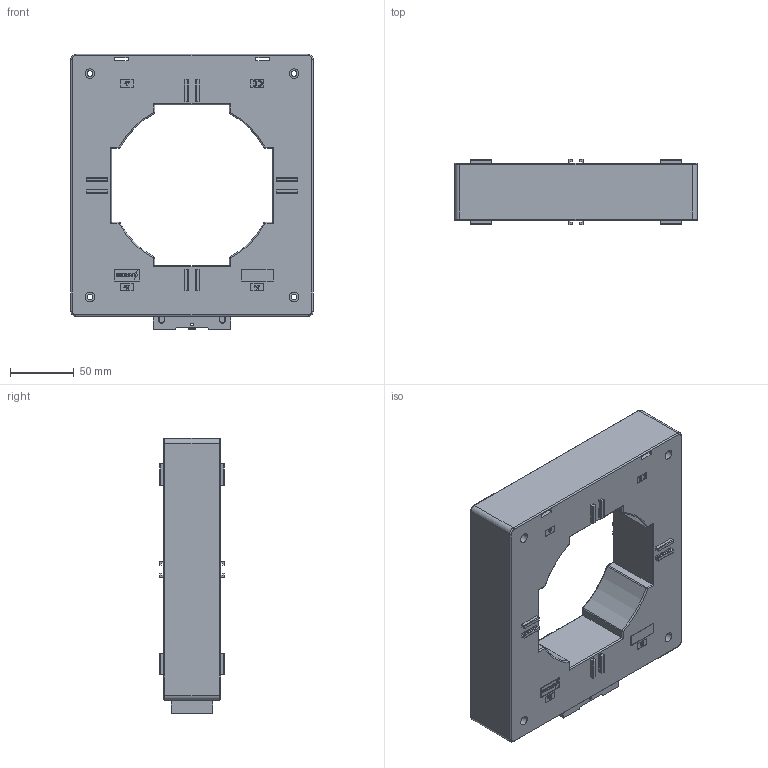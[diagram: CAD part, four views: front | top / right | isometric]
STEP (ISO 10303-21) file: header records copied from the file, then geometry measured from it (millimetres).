
FILE_DESCRIPTION (( 'STEP AP203' ), '1' );
FILE_NAME ('TT-B120.STEP', '2016-12-19T10:22:40', ( '' ), ( '' ), 'SwSTEP 2.0', 'SolidWorks 2015', '' );
FILE_SCHEMA (( 'CONFIG_CONTROL_DESIGN' ));
Length unit declared in the file: millimetre
Products named in the file (1): TT-B120
Bounding box: 190 x 50.8 x 215.5 mm (x, y, z)
Volume: 1159265.2 mm3; surface area: 126913 mm2
Topology: 2 solids, 4 shells, 1419 faces, 3630 edges, 2304 vertices
Faces by surface type: plane 829, cylinder 275, bspline 247, cone 28, sphere 24, torus 16
Entity records: 50225 total; most frequent: CARTESIAN_POINT 17531, ORIENTED_EDGE 7228, DIRECTION 5780, EDGE_CURVE 3614, LINE 2502, VECTOR 2502, VERTEX_POINT 2304, AXIS2_PLACEMENT_3D 1639
